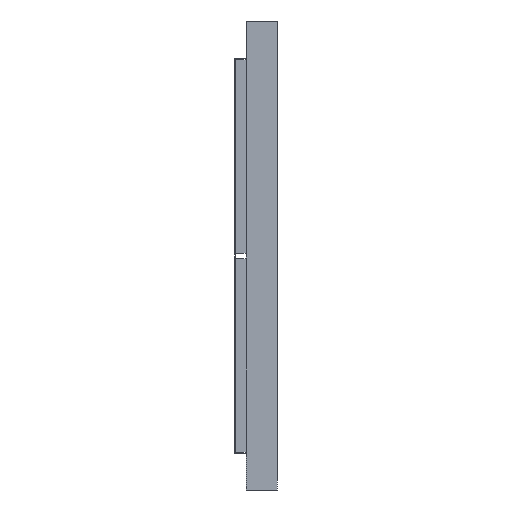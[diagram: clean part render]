
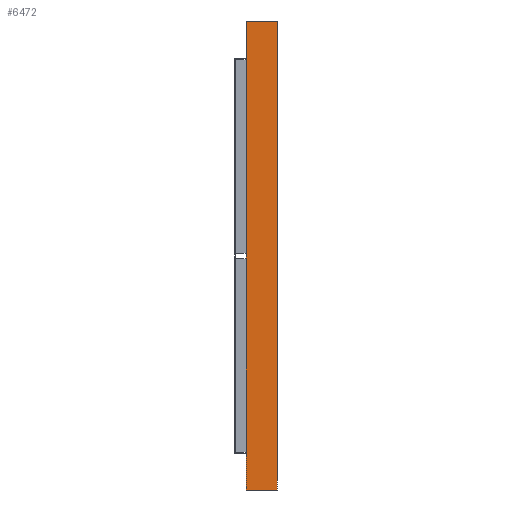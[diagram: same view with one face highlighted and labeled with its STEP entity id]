
A CAD part, left-side view. The second image highlights one B-rep face of the part: STEP entity #6472.
In plain terms, the highlighted planar face has unit normal (-1, 0, 0).
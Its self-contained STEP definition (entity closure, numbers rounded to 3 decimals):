
#1449=DIRECTION('',(0.,1.,0.));
#1450=VECTOR('',#1449,12.);
#1451=CARTESIAN_POINT('',(-255.65,0.,90.));
#1452=LINE('',#1451,#1450);
#1453=DIRECTION('',(0.,0.,1.));
#1454=VECTOR('',#1453,180.);
#1455=CARTESIAN_POINT('',(-255.65,0.,-90.));
#1456=LINE('',#1455,#1454);
#1457=DIRECTION('',(0.,-1.,0.));
#1458=VECTOR('',#1457,12.);
#1459=CARTESIAN_POINT('',(-255.65,12.,-90.));
#1460=LINE('',#1459,#1458);
#1461=DIRECTION('',(0.,0.,-1.));
#1462=VECTOR('',#1461,180.);
#1463=CARTESIAN_POINT('',(-255.65,12.,90.));
#1464=LINE('',#1463,#1462);
#4177=CARTESIAN_POINT('',(-255.65,0.,90.));
#4178=CARTESIAN_POINT('',(-255.65,12.,90.));
#4179=VERTEX_POINT('',#4177);
#4180=VERTEX_POINT('',#4178);
#4181=CARTESIAN_POINT('',(-255.65,12.,-90.));
#4182=VERTEX_POINT('',#4181);
#4183=CARTESIAN_POINT('',(-255.65,0.,-90.));
#4184=VERTEX_POINT('',#4183);
#6461=CARTESIAN_POINT('',(-255.65,0.,0.));
#6462=DIRECTION('',(-1.,0.,0.));
#6463=DIRECTION('',(0.,-1.,0.));
#6464=AXIS2_PLACEMENT_3D('',#6461,#6462,#6463);
#6465=PLANE('',#6464);
#6466=ORIENTED_EDGE('',*,*,#5537,.F.);
#6467=ORIENTED_EDGE('',*,*,#5552,.F.);
#6468=ORIENTED_EDGE('',*,*,#5674,.F.);
#6469=ORIENTED_EDGE('',*,*,#5687,.F.);
#6470=EDGE_LOOP('',(#6466,#6467,#6468,#6469));
#6471=FACE_OUTER_BOUND('',#6470,.F.);
#6472=ADVANCED_FACE('',(#6471),#6465,.T.);
#5537=EDGE_CURVE('',#4179,#4180,#1452,.T.);
#5552=EDGE_CURVE('',#4184,#4179,#1456,.T.);
#5674=EDGE_CURVE('',#4182,#4184,#1460,.T.);
#5687=EDGE_CURVE('',#4180,#4182,#1464,.T.);
